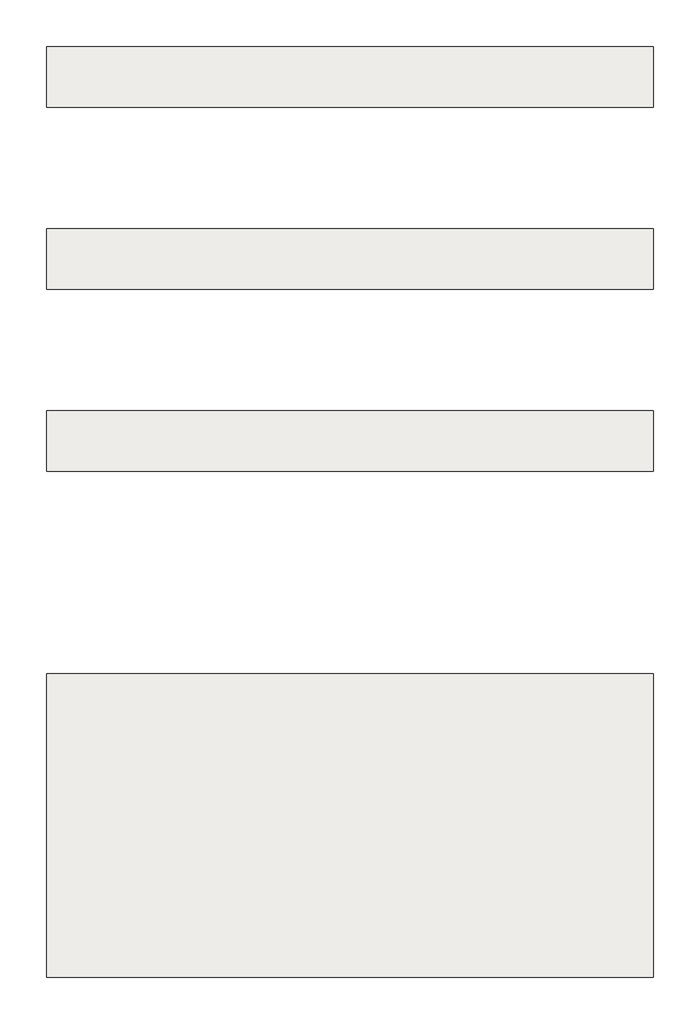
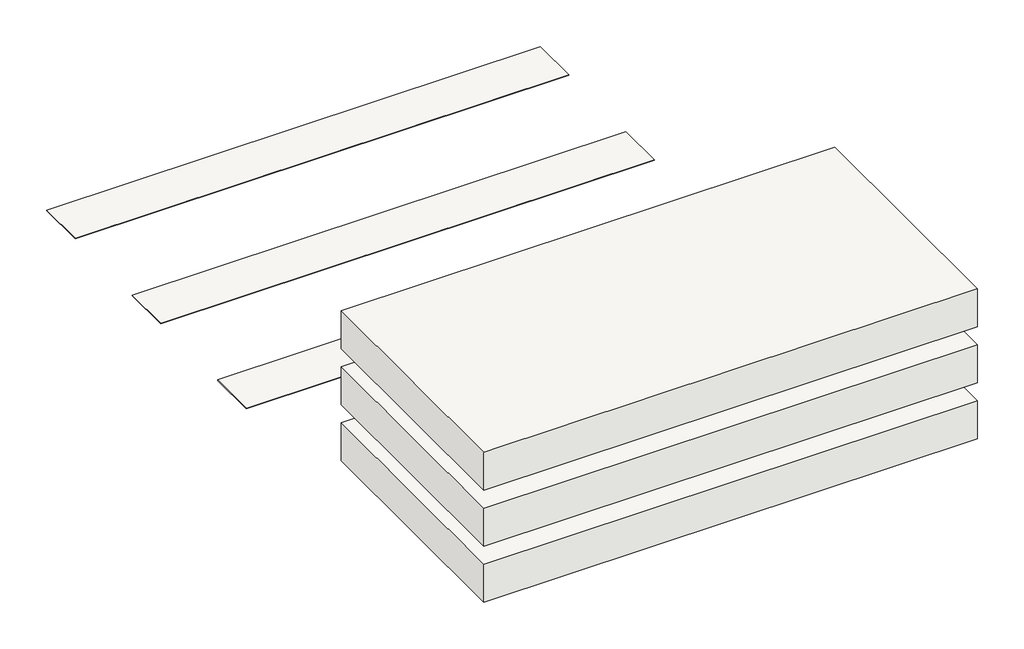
# One storey: 6 coverings.
"""IFC4 building model written with IfcOpenShell, lengths in millimetres."""

from ifc_helpers import new_model, si_unit, frame, origin, place, context, project, spatial, polyline, outline, extrude, element, save

model = new_model("IFC4")

# Units and contexts
model_context = context("Model", 3, world=origin())
ifc_project = project(units=[si_unit("LENGTHUNIT", "METRE", prefix="MILLI")], contexts=[model_context])

# Site, building, storey
site = spatial("IfcSite", under=ifc_project)
building = spatial("IfcBuilding", under=site)
storey = spatial("IfcBuildingStorey", under=building, Name="Sikalastic® Vehicular Traffic 1500 en sustrato", Elevation=0.0)

# Coverings
placement = place(None, origin())
element("IfcCovering", 1, ObjectType="Sikalastic® Vehicular Traffic 1500 (Extra Pesado) en sustrato", at=placement, inside=storey, context=model_context, shape_type="SweptSolid", body=[
    extrude(outline(polyline([(-2863.5440886, 3449.2266744), (-2863.5440886, 2949.2266744), (-3863.5440886, 2949.2266744), (-3863.5440886, 3449.2266744), (-2863.5440886, 3449.2266744)])), frame((0.0, 0.0, 90.0882605), z_axis=(0.0, 0.0, 1.0), x_axis=(1.0, 0.0, 0.0)), (0.0, 0.0, 1.0), 81.5),
])
element("IfcCovering", 2, ObjectType="Sikalastic® Vehicular Traffic 1500 (Extra Pesado)", at=placement, inside=storey, context=model_context, shape_type="SweptSolid", body=[
    extrude(outline(polyline([(-2863.5440886, 3882.7561983), (-2863.5440886, 3782.7561983), (-3863.5440886, 3782.7561983), (-3863.5440886, 3882.7561983), (-2863.5440886, 3882.7561983)])), frame((0.0, 0.0, -1.5), z_axis=(0.0, 0.0, 1.0), x_axis=(1.0, 0.0, 0.0)), (0.0, 0.0, 1.0), 1.5),
])
element("IfcCovering", 3, ObjectType="Sikalastic® Vehicular Traffic 1500 (Pesado) en sustrato", at=placement, inside=storey, context=model_context, shape_type="SweptSolid", body=[
    extrude(outline(polyline([(-2863.5440886, 3449.2266744), (-2863.5440886, 2949.2266744), (-3863.5440886, 2949.2266744), (-3863.5440886, 3449.2266744), (-2863.5440886, 3449.2266744)])), frame((0.0, 0.0, 210.2304418), z_axis=(0.0, 0.0, 1.0), x_axis=(1.0, 0.0, 0.0)), (0.0, 0.0, 1.0), 81.3),
])
element("IfcCovering", 4, ObjectType="Sikalastic® Vehicular Traffic 1500 (Pesado)", at=placement, inside=storey, context=model_context, shape_type="SweptSolid", body=[
    extrude(outline(polyline([(-2863.5440886, 4182.7561983), (-2863.5440886, 4082.7561983), (-3863.5440886, 4082.7561983), (-3863.5440886, 4182.7561983), (-2863.5440886, 4182.7561983)])), frame((0.0, 0.0, -1.1), z_axis=(0.0, 0.0, 1.0), x_axis=(1.0, 0.0, 0.0)), (0.0, 0.0, 1.0), 1.1),
])
element("IfcCovering", 5, ObjectType="Sikalastic® Vehicular Traffic 1500 (Mediano a Leve) en sustrato", at=placement, inside=storey, context=model_context, shape_type="SweptSolid", body=[
    extrude(outline(polyline([(-2863.5440886, 3449.2266744), (-2863.5440886, 2949.2266744), (-3863.5440886, 2949.2266744), (-3863.5440886, 3449.2266744), (-2863.5440886, 3449.2266744)])), frame((0.0, 0.0, 329.7518543), z_axis=(0.0, 0.0, 1.0), x_axis=(1.0, 0.0, 0.0)), (0.0, 0.0, 1.0), 81.3),
])
element("IfcCovering", 6, ObjectType="Sikalastic® Vehicular Traffic 1500 (Mediano a leve)", at=placement, inside=storey, context=model_context, shape_type="SweptSolid", body=[
    extrude(outline(polyline([(-2863.5440886, 4482.7561983), (-2863.5440886, 4382.7561983), (-3863.5440886, 4382.7561983), (-3863.5440886, 4482.7561983), (-2863.5440886, 4482.7561983)])), frame((0.0, 0.0, -1.1), z_axis=(0.0, 0.0, 1.0), x_axis=(1.0, 0.0, 0.0)), (0.0, 0.0, 1.0), 1.1),
])

save(model, "model.ifc")
